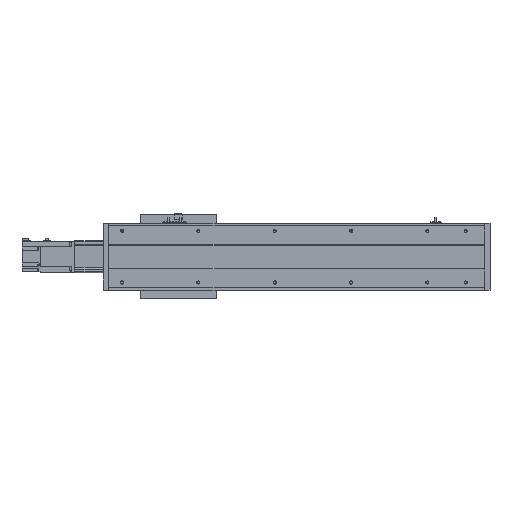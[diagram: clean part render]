
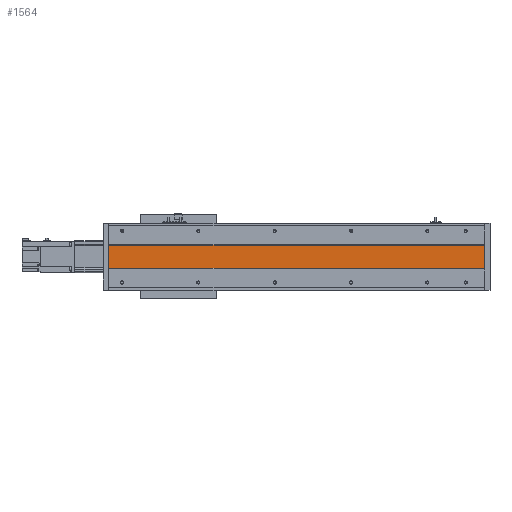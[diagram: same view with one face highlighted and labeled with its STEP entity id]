
A CAD part, front view. The second image highlights one B-rep face of the part: STEP entity #1564.
In plain terms, the highlighted planar face has unit normal (0, -1, 0).
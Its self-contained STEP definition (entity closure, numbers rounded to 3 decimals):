
#1564 = ADVANCED_FACE( '', ( #3223 ), #3224, .F. );
#3223 = FACE_OUTER_BOUND( '', #4964, .T. );
#3224 = PLANE( '', #4965 );
#4964 = EDGE_LOOP( '', ( #9203, #9204, #9205, #9206 ) );
#4965 = AXIS2_PLACEMENT_3D( '', #9207, #9208, #9209 );
#9203 = ORIENTED_EDGE( '', *, *, #10953, .F. );
#9204 = ORIENTED_EDGE( '', *, *, #10223, .T. );
#9205 = ORIENTED_EDGE( '', *, *, #10657, .T. );
#9206 = ORIENTED_EDGE( '', *, *, #10902, .F. );
#9207 = CARTESIAN_POINT( '', ( 1013., 1., 30. ) );
#9208 = DIRECTION( '', ( 0., 1., 0. ) );
#9209 = DIRECTION( '', ( 0., 0., 1. ) );
#10223 = EDGE_CURVE( '', #12224, #12228, #12230, .T. );
#10657 = EDGE_CURVE( '', #12228, #12975, #12977, .T. );
#10902 = EDGE_CURVE( '', #13353, #12975, #13355, .T. );
#10953 = EDGE_CURVE( '', #12224, #13353, #13439, .T. );
#12224 = VERTEX_POINT( '', #15110 );
#12228 = VERTEX_POINT( '', #15116 );
#12230 = LINE( '', #15119, #15120 );
#12975 = VERTEX_POINT( '', #16167 );
#12977 = LINE( '', #16170, #16171 );
#13353 = VERTEX_POINT( '', #16710 );
#13355 = LINE( '', #16713, #16714 );
#13439 = LINE( '', #16827, #16828 );
#15110 = CARTESIAN_POINT( '', ( 999., 1., 30. ) );
#15116 = CARTESIAN_POINT( '', ( 14., 1., 30. ) );
#15119 = CARTESIAN_POINT( '', ( 1013., 1., 30. ) );
#15120 = VECTOR( '', #18717, 1000. );
#16167 = CARTESIAN_POINT( '', ( 14., 1., -30. ) );
#16170 = CARTESIAN_POINT( '', ( 14., 1., 30. ) );
#16171 = VECTOR( '', #19237, 1000. );
#16710 = CARTESIAN_POINT( '', ( 999., 1., -30. ) );
#16713 = CARTESIAN_POINT( '', ( 1013., 1., -30. ) );
#16714 = VECTOR( '', #19471, 1000. );
#16827 = CARTESIAN_POINT( '', ( 999., 1., 30. ) );
#16828 = VECTOR( '', #19537, 1000. );
#18717 = DIRECTION( '', ( -1., 0., 0. ) );
#19237 = DIRECTION( '', ( 0., 0., -1. ) );
#19471 = DIRECTION( '', ( -1., 0., 0. ) );
#19537 = DIRECTION( '', ( 0., 0., -1. ) );
